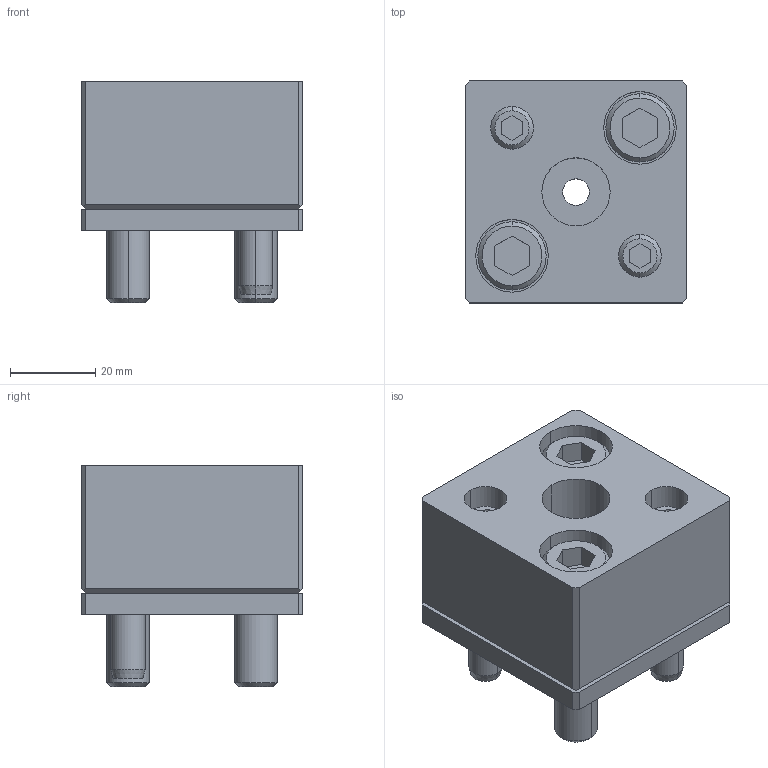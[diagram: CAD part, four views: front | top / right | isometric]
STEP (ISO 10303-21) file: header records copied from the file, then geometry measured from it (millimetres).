
FILE_DESCRIPTION(/* description */ (''),/* implementation_level */ '2;1');
FILE_NAME(/* name */ '3d_sa-ap16_02900_r00.stp',/* time_stamp */ '2011-01-10T14:11:29+09:00',/* author */ ('MISUMI'),/* organization */ (''),/* preprocessor_version */ 'ST-DEVELOPER v11',/* originating_system */ 'UGS - NX 5.0',/* authorisation */ '');
FILE_SCHEMA (('CONFIG_CONTROL_DESIGN'));
Length unit declared in the file: millimetre
Products named in the file (1): 3d_sa-ap16_02900_r00
Bounding box: 52 x 52 x 52 mm (x, y, z)
Volume: 85854.9 mm3; surface area: 30221.9 mm2
Topology: 8 solids, 8 shells, 159 faces, 358 edges, 230 vertices
Faces by surface type: plane 77, cylinder 56, cone 26
Entity records: 4588 total; most frequent: DIRECTION 812, CARTESIAN_POINT 790, ORIENTED_EDGE 716, EDGE_CURVE 358, AXIS2_PLACEMENT_3D 298, VERTEX_POINT 230, LINE 216, VECTOR 216
